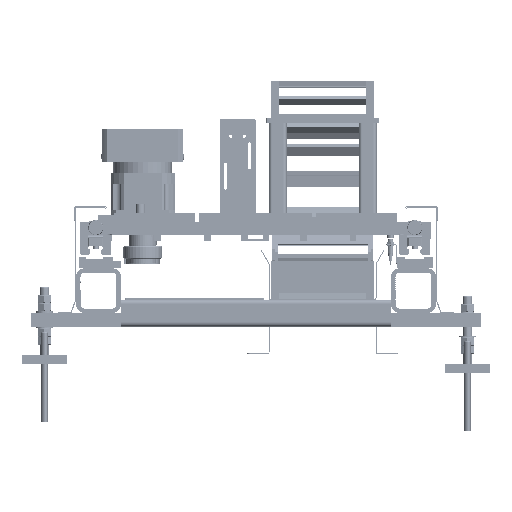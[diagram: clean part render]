
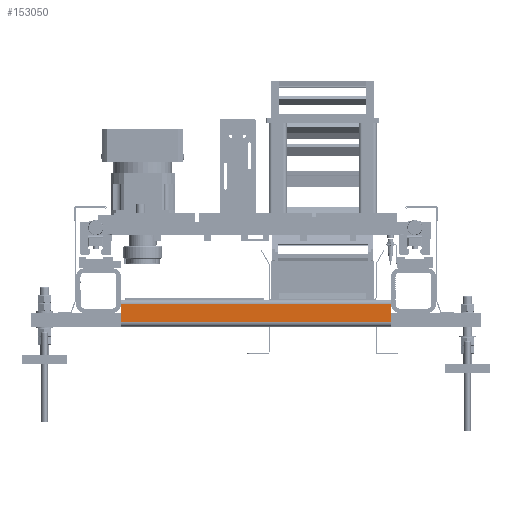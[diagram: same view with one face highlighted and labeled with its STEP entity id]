
A CAD part, front view. The second image highlights one B-rep face of the part: STEP entity #153050.
In plain terms, the highlighted planar face has unit normal (0, -1, 0).
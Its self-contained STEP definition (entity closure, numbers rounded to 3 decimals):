
#11065 = ORIENTED_EDGE ( 'NONE', *, *, #97836, .F. ) ;
#14663 = CARTESIAN_POINT ( 'NONE',  ( -300., 180., -30. ) ) ;
#29089 = VECTOR ( 'NONE', #92623, 1000. ) ;
#29169 = AXIS2_PLACEMENT_3D ( 'NONE', #59957, #92565, #74918 ) ;
#30348 = LINE ( 'NONE', #185068, #197526 ) ;
#49871 = CARTESIAN_POINT ( 'NONE',  ( 300., 180., -30. ) ) ;
#59195 = DIRECTION ( 'NONE',  ( -1., 0., 0. ) ) ;
#59957 = CARTESIAN_POINT ( 'NONE',  ( 300., 180., -30. ) ) ;
#69662 = DIRECTION ( 'NONE',  ( 0., 0., -1. ) ) ;
#74866 = CARTESIAN_POINT ( 'NONE',  ( 300., 180., -30. ) ) ;
#74918 = DIRECTION ( 'NONE',  ( 0., 0., 1. ) ) ;
#76328 = PLANE ( 'NONE',  #29169 ) ;
#83651 = CARTESIAN_POINT ( 'NONE',  ( -300., 180., -70. ) ) ;
#85084 = LINE ( 'NONE', #74866, #155903 ) ;
#92565 = DIRECTION ( 'NONE',  ( 0., 1., 0. ) ) ;
#92623 = DIRECTION ( 'NONE',  ( -1., 0., 0. ) ) ;
#93482 = EDGE_CURVE ( 'NONE', #134320, #185587, #110158, .T. ) ;
#94569 = CARTESIAN_POINT ( 'NONE',  ( 300., 180., -70. ) ) ;
#97836 = EDGE_CURVE ( 'NONE', #111176, #134320, #152257, .T. ) ;
#110158 = LINE ( 'NONE', #154873, #29089 ) ;
#111176 = VERTEX_POINT ( 'NONE', #49871 ) ;
#112812 = ORIENTED_EDGE ( 'NONE', *, *, #167603, .T. ) ;
#114175 = FACE_OUTER_BOUND ( 'NONE', #127377, .T. ) ;
#125049 = DIRECTION ( 'NONE',  ( 0., 0., -1. ) ) ;
#127377 = EDGE_LOOP ( 'NONE', ( #134110, #191069, #11065, #112812 ) ) ;
#134110 = ORIENTED_EDGE ( 'NONE', *, *, #154147, .T. ) ;
#134320 = VERTEX_POINT ( 'NONE', #94569 ) ;
#152257 = LINE ( 'NONE', #189536, #180189 ) ;
#153050 = ADVANCED_FACE ( 'NONE', ( #114175 ), #76328, .F. ) ;
#154147 = EDGE_CURVE ( 'NONE', #168357, #185587, #30348, .T. ) ;
#154873 = CARTESIAN_POINT ( 'NONE',  ( 300., 180., -70. ) ) ;
#155903 = VECTOR ( 'NONE', #59195, 1000. ) ;
#167603 = EDGE_CURVE ( 'NONE', #111176, #168357, #85084, .T. ) ;
#168357 = VERTEX_POINT ( 'NONE', #14663 ) ;
#180189 = VECTOR ( 'NONE', #125049, 1000. ) ;
#185068 = CARTESIAN_POINT ( 'NONE',  ( -300., 180., -30. ) ) ;
#185587 = VERTEX_POINT ( 'NONE', #83651 ) ;
#189536 = CARTESIAN_POINT ( 'NONE',  ( 300., 180., -30. ) ) ;
#191069 = ORIENTED_EDGE ( 'NONE', *, *, #93482, .F. ) ;
#197526 = VECTOR ( 'NONE', #69662, 1000. ) ;
